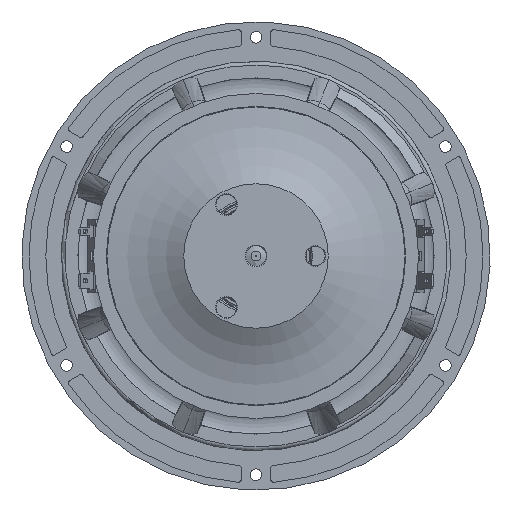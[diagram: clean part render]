
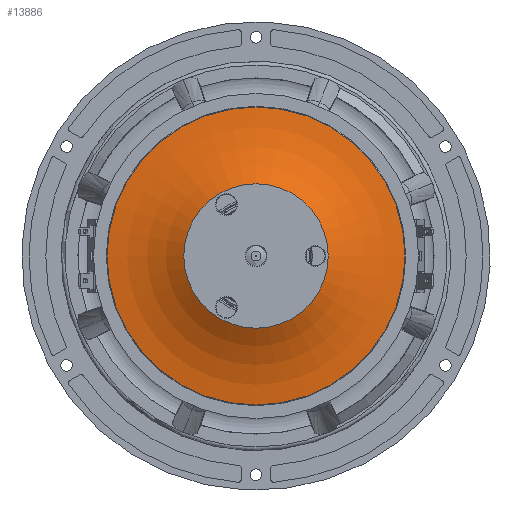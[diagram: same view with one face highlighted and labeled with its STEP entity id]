
A CAD part, front view. The second image highlights one B-rep face of the part: STEP entity #13886.
In plain terms, the highlighted toroidal (fillet/blend) face has major radius 61.303 mm and minor radius 60 mm.
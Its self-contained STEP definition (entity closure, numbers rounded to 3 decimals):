
#208=TOROIDAL_SURFACE('',#15302,61.303,60.);
#1473=FACE_OUTER_BOUND('',#2308,.T.);
#2308=EDGE_LOOP('',(#11845,#11846,#11847,#11848));
#3050=CIRCLE('',#14157,28.);
#3702=CIRCLE('',#15301,57.75);
#3703=CIRCLE('',#15303,60.);
#5494=VERTEX_POINT('',#19851);
#6483=VERTEX_POINT('',#39917);
#6852=EDGE_CURVE('',#5494,#5494,#3050,.T.);
#8409=EDGE_CURVE('',#6483,#6483,#3702,.T.);
#8410=EDGE_CURVE('',#6483,#5494,#3703,.T.);
#11845=ORIENTED_EDGE('',*,*,#8409,.T.);
#11846=ORIENTED_EDGE('',*,*,#8410,.T.);
#11847=ORIENTED_EDGE('',*,*,#6852,.F.);
#11848=ORIENTED_EDGE('',*,*,#8410,.F.);
#13886=ADVANCED_FACE('',(#1473),#208,.F.);
#14157=AXIS2_PLACEMENT_3D('',#19852,#15805,#15806);
#15301=AXIS2_PLACEMENT_3D('',#39919,#18522,#18523);
#15302=AXIS2_PLACEMENT_3D('',#39920,#18524,#18525);
#15303=AXIS2_PLACEMENT_3D('',#39921,#18526,#18527);
#15805=DIRECTION('center_axis',(0.,0.288,
0.958));
#15806=DIRECTION('ref_axis',(-1.,0.,0.));
#18522=DIRECTION('center_axis',(0.,0.288,
0.958));
#18523=DIRECTION('ref_axis',(-1.,0.,0.));
#18524=DIRECTION('center_axis',(0.,-0.288,
-0.958));
#18525=DIRECTION('ref_axis',(1.,0.,0.));
#18526=DIRECTION('center_axis',(0.,-0.958,
0.288));
#18527=DIRECTION('ref_axis',(-1.,0.,0.));
#19851=CARTESIAN_POINT('',(-28.,-34.623,101.132));
#19852=CARTESIAN_POINT('Origin',(0.,-34.623,
101.132));
#39917=CARTESIAN_POINT('',(-57.75,-37.496,91.569));
#39919=CARTESIAN_POINT('Origin',(0.,-37.496,
91.569));
#39920=CARTESIAN_POINT('Origin',(0.,-20.262,
148.93));
#39921=CARTESIAN_POINT('Origin',(-61.303,-20.262,148.93));
